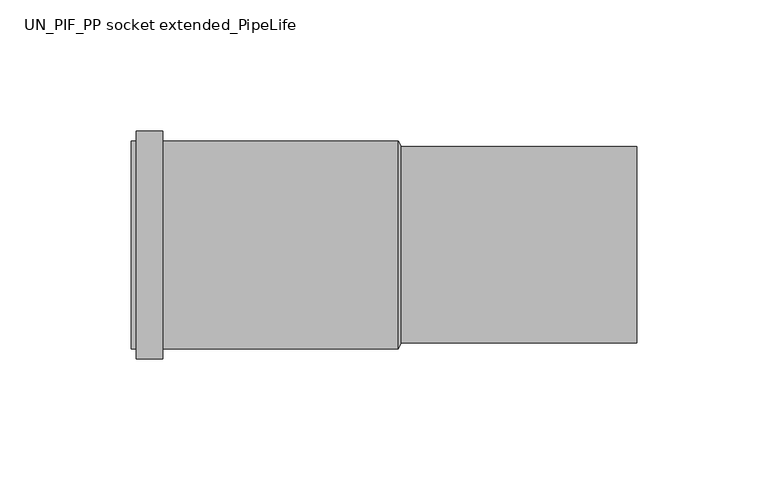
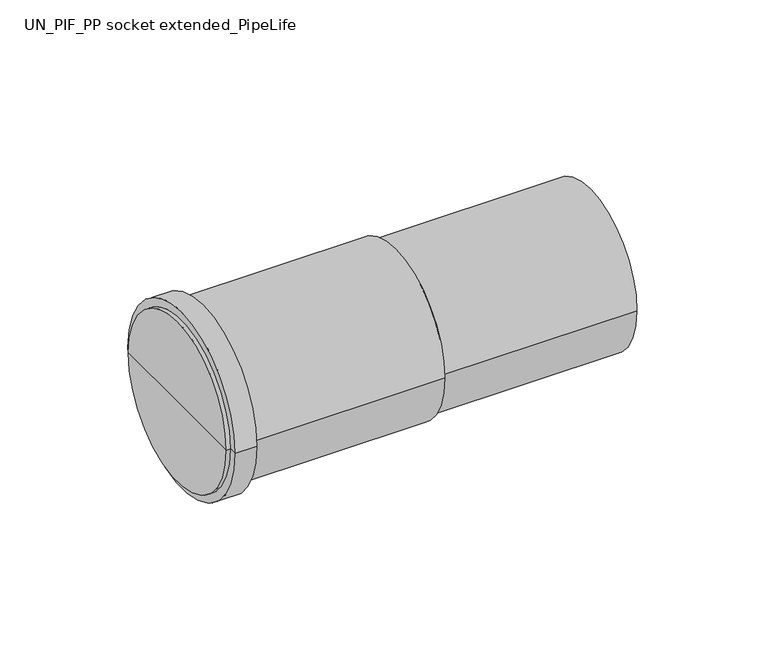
"""IFC4 building model written with IfcOpenShell, lengths in millimetres: pipe fitting geometry, UN_PIF_PP socket extended_PipeLife : Black, var. DN/OD (max. ø125)."""

from ifc_helpers import new_model, si_unit, frame, origin, place, context, project, spatial, polyline, circle_curve, source, transform, mapped, element, save
from ifc_brep_helpers import plane_surface, cylinder_surface, revolved_surface, advanced_brep


def un_pif_pp_socket_extended_pipelife_7ef3b572(model_context):
    return source(origin(), model_context, "Body", "AdvancedBrep", [
        advanced_brep(
        [(91.0, -37.5, 0.0), (91.0, 37.5, 0.0), (91.0, 0.0, 0.0), (1.0, -37.5, 0.0), (1.0, 37.5, 0.0), (0.0, -39.65, 0.0), (0.0, 39.65, 0.0), (-90.0, -39.65, 0.0), (-90.0, 39.65, 0.0), (-90.0, -43.5, 0.0), (-90.0, 43.5, 0.0), (-100.0, -43.5, 0.0), (-100.0, 43.5, 0.0), (-100.0, -39.65, 0.0), (-100.0, 39.65, 0.0), (-102.0, -39.65, 0.0), (-102.0, 39.65, 0.0), (-102.0, 0.0, 0.0)],
        [
            (0, 1, circle_curve(frame((91.0, 0.0, 0.0), z_axis=(1.0, 0.0, 0.0), x_axis=(0.0, 1.0, 0.0)), 37.5)),
            (1, 2),
            (2, 0),
            (1, 0, circle_curve(frame((91.0, 0.0, 0.0), z_axis=(1.0, 0.0, 0.0), x_axis=(0.0, 1.0, 0.0)), 37.5)),
            (3, 4, circle_curve(frame((1.0, 0.0, 0.0), z_axis=(1.0, 0.0, 0.0), x_axis=(0.0, 1.0, 0.0)), 37.5)),
            (4, 1),
            (0, 3),
            (4, 3, circle_curve(frame((1.0, 0.0, 0.0), z_axis=(1.0, 0.0, 0.0), x_axis=(0.0, 1.0, 0.0)), 37.5)),
            (5, 6, circle_curve(frame((0.0, 0.0, 0.0), z_axis=(1.0, 0.0, 0.0), x_axis=(0.0, 1.0, 0.0)), 39.65)),
            (6, 4),
            (3, 5),
            (6, 5, circle_curve(frame((0.0, 0.0, 0.0), z_axis=(1.0, 0.0, 0.0), x_axis=(0.0, 1.0, 0.0)), 39.65)),
            (7, 8, circle_curve(frame((-90.0, 0.0, 0.0), z_axis=(1.0, 0.0, 0.0), x_axis=(0.0, 1.0, 0.0)), 39.65)),
            (8, 6),
            (5, 7),
            (8, 7, circle_curve(frame((-90.0, 0.0, 0.0), z_axis=(1.0, 0.0, 0.0), x_axis=(0.0, 1.0, 0.0)), 39.65)),
            (9, 10, circle_curve(frame((-90.0, 0.0, 0.0), z_axis=(1.0, 0.0, 0.0), x_axis=(0.0, 1.0, 0.0)), 43.5)),
            (10, 8),
            (7, 9),
            (10, 9, circle_curve(frame((-90.0, 0.0, 0.0), z_axis=(1.0, 0.0, 0.0), x_axis=(0.0, 1.0, 0.0)), 43.5)),
            (11, 12, circle_curve(frame((-100.0, 0.0, 0.0), z_axis=(1.0, 0.0, 0.0), x_axis=(0.0, 1.0, 0.0)), 43.5)),
            (12, 10),
            (9, 11),
            (12, 11, circle_curve(frame((-100.0, 0.0, 0.0), z_axis=(1.0, 0.0, 0.0), x_axis=(0.0, 1.0, 0.0)), 43.5)),
            (13, 14, circle_curve(frame((-100.0, 0.0, 0.0), z_axis=(1.0, 0.0, 0.0), x_axis=(0.0, 1.0, 0.0)), 39.65)),
            (14, 12),
            (11, 13),
            (14, 13, circle_curve(frame((-100.0, 0.0, 0.0), z_axis=(1.0, 0.0, 0.0), x_axis=(0.0, 1.0, 0.0)), 39.65)),
            (15, 16, circle_curve(frame((-102.0, 0.0, 0.0), z_axis=(1.0, 0.0, 0.0), x_axis=(0.0, 1.0, 0.0)), 39.65)),
            (16, 14),
            (13, 15),
            (16, 15, circle_curve(frame((-102.0, 0.0, 0.0), z_axis=(1.0, 0.0, 0.0), x_axis=(0.0, 1.0, 0.0)), 39.65)),
            (17, 16),
            (15, 17),
        ],
        [
            plane_surface(frame((91.0, 0.0, 0.0), z_axis=(1.0, 0.0, 0.0), x_axis=(0.0, 1.0, 0.0))),
            cylinder_surface(frame((-102.0, 0.0, 0.0), z_axis=(-1.0, 0.0, 0.0), x_axis=(0.0, 1.0, 0.0)), 37.5),
            revolved_surface(polyline([(1.0, 37.5, 0.0), (0.0, 39.65, 0.0)]), (-102.0, 0.0, 0.0), (-1.0, 0.0, 0.0)),
            cylinder_surface(frame((-102.0, 0.0, 0.0), z_axis=(-1.0, 0.0, 0.0), x_axis=(0.0, 1.0, 0.0)), 39.65),
            plane_surface(frame((-90.0, 0.0, 0.0), z_axis=(1.0, 0.0, 0.0), x_axis=(0.0, 1.0, 0.0))),
            cylinder_surface(frame((-102.0, 0.0, 0.0), z_axis=(-1.0, 0.0, 0.0), x_axis=(0.0, 1.0, 0.0)), 43.5),
            plane_surface(frame((-100.0, 0.0, 0.0), z_axis=(-1.0, 0.0, 0.0), x_axis=(0.0, 1.0, 0.0))),
            plane_surface(frame((-102.0, 0.0, 0.0), z_axis=(-1.0, 0.0, 0.0), x_axis=(0.0, 1.0, 0.0))),
        ],
        [
            (0, [[1, 2, 3]]),
            (0, [[4, -3, -2]]),
            (1, [[5, 6, -1, 7]]),
            (1, [[8, -7, -4, -6]]),
            (2, [[9, 10, -5, 11]]),
            (2, [[12, -11, -8, -10]]),
            (3, [[13, 14, -9, 15]]),
            (3, [[16, -15, -12, -14]]),
            (4, [[17, 18, -13, 19]]),
            (4, [[20, -19, -16, -18]]),
            (5, [[21, 22, -17, 23]]),
            (5, [[24, -23, -20, -22]]),
            (6, [[25, 26, -21, 27]]),
            (6, [[28, -27, -24, -26]]),
            (3, [[29, 30, -25, 31]]),
            (3, [[32, -31, -28, -30]]),
            (7, [[33, -29, 34]]),
            (7, [[-34, -32, -33]]),
        ],
    ),
    ])


if __name__ == "__main__":
    model = new_model("IFC4")
    model_context = context("Model", 3, world=origin())
    ifc_project = project(units=[si_unit("LENGTHUNIT", "METRE", prefix="MILLI")], contexts=[model_context])
    site = spatial("IfcSite", under=ifc_project)
    building = spatial("IfcBuilding", under=site)
    placement = place(None, origin())
    un_pif_pp_socket_extended_pipelife_shape = un_pif_pp_socket_extended_pipelife_7ef3b572(model_context)
    element("IfcPipeFitting", 1, ObjectType="UN_PIF_PP socket extended_PipeLife : Black, var. DN/OD (max. ø125)", at=placement, inside=building, context=model_context, shape_type="MappedRepresentation", body=[
        mapped(un_pif_pp_socket_extended_pipelife_shape, transform((0.0, 0.0, 0.0), x_axis=(1.0, 0.0, 0.0), y_axis=(0.0, 1.0, 0.0), z_axis=(0.0, 0.0, 1.0))),
    ])
    save(model, "model.ifc")
